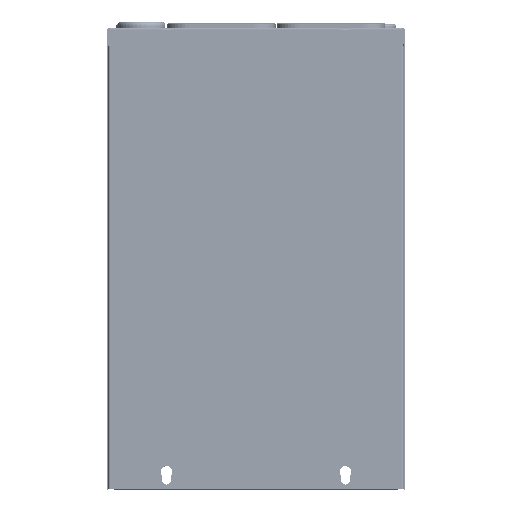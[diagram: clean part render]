
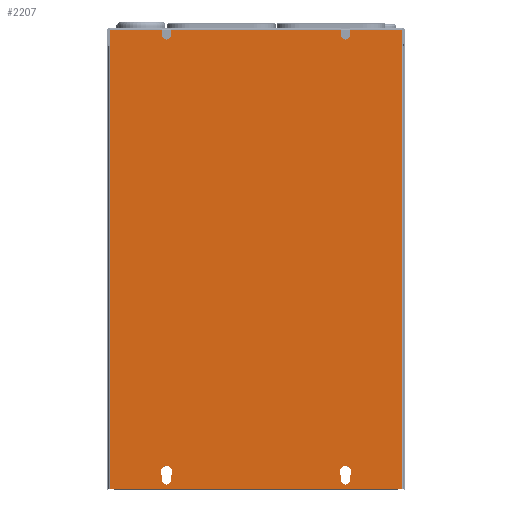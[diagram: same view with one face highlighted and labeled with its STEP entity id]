
A CAD part, front view. The second image highlights one B-rep face of the part: STEP entity #2207.
In plain terms, the highlighted planar face has unit normal (0, -1, 0).
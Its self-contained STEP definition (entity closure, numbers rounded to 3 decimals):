
#197=DIRECTION('',(1.,0.,0.));
#198=VECTOR('',#197,238.2);
#199=CARTESIAN_POINT('',(-119.1,-1.2,-192.3));
#200=LINE('',#199,#198);
#211=CARTESIAN_POINT('',(-75.,-1.2,187.5));
#212=DIRECTION('',(0.,-1.,0.));
#213=DIRECTION('',(-1.,0.,0.));
#214=AXIS2_PLACEMENT_3D('',#211,#212,#213);
#219=DIRECTION('',(0.,0.,1.));
#220=VECTOR('',#219,4.8);
#221=CARTESIAN_POINT('',(-71.5,-1.2,187.5));
#222=LINE('',#221,#220);
#226=CARTESIAN_POINT('',(75.,-1.2,187.5));
#227=DIRECTION('',(0.,-1.,0.));
#228=DIRECTION('',(-1.,0.,0.));
#229=AXIS2_PLACEMENT_3D('',#226,#227,#228);
#234=DIRECTION('',(0.,0.,1.));
#235=VECTOR('',#234,4.8);
#236=CARTESIAN_POINT('',(78.5,-1.2,187.5));
#237=LINE('',#236,#235);
#241=DIRECTION('',(-1.,0.,0.));
#242=VECTOR('',#241,0.5);
#243=CARTESIAN_POINT('',(122.6,-1.2,178.5));
#244=LINE('',#243,#242);
#248=DIRECTION('',(-1.,0.,0.));
#249=VECTOR('',#248,3.);
#250=CARTESIAN_POINT('',(122.1,-1.2,-192.3));
#251=LINE('',#250,#249);
#255=DIRECTION('',(-1.,0.,0.));
#256=VECTOR('',#255,3.);
#257=CARTESIAN_POINT('',(-119.1,-1.2,-192.3));
#258=LINE('',#257,#256);
#262=DIRECTION('',(0.,0.,-1.));
#263=VECTOR('',#262,3.429);
#264=CARTESIAN_POINT('',(71.5,-1.2,-182.071));
#265=LINE('',#264,#263);
#269=CARTESIAN_POINT('',(75.,-1.2,-185.5));
#270=DIRECTION('',(0.,-1.,0.));
#271=DIRECTION('',(-1.,0.,0.));
#272=AXIS2_PLACEMENT_3D('',#269,#270,#271);
#277=DIRECTION('',(0.,0.,1.));
#278=VECTOR('',#277,3.429);
#279=CARTESIAN_POINT('',(78.5,-1.2,-185.5));
#280=LINE('',#279,#278);
#284=CARTESIAN_POINT('',(75.,-1.2,-178.5));
#285=DIRECTION('',(0.,-1.,0.));
#286=DIRECTION('',(0.7,0.,-0.714));
#287=AXIS2_PLACEMENT_3D('',#284,#285,#286);
#292=CARTESIAN_POINT('',(75.,-1.2,-178.5));
#293=DIRECTION('',(0.,-1.,0.));
#294=DIRECTION('',(1.,0.,0.));
#295=AXIS2_PLACEMENT_3D('',#292,#293,#294);
#300=CARTESIAN_POINT('',(75.,-1.2,-178.5));
#301=DIRECTION('',(0.,-1.,0.));
#302=DIRECTION('',(-1.,0.,0.));
#303=AXIS2_PLACEMENT_3D('',#300,#301,#302);
#308=CARTESIAN_POINT('',(-75.,-1.2,-185.5));
#309=DIRECTION('',(0.,-1.,0.));
#310=DIRECTION('',(-1.,0.,0.));
#311=AXIS2_PLACEMENT_3D('',#308,#309,#310);
#316=DIRECTION('',(0.,0.,1.));
#317=VECTOR('',#316,3.429);
#318=CARTESIAN_POINT('',(-71.5,-1.2,-185.5));
#319=LINE('',#318,#317);
#323=CARTESIAN_POINT('',(-75.,-1.2,-178.5));
#324=DIRECTION('',(0.,-1.,0.));
#325=DIRECTION('',(0.7,0.,-0.714));
#326=AXIS2_PLACEMENT_3D('',#323,#324,#325);
#331=CARTESIAN_POINT('',(-75.,-1.2,-178.5));
#332=DIRECTION('',(0.,-1.,0.));
#333=DIRECTION('',(1.,0.,0.));
#334=AXIS2_PLACEMENT_3D('',#331,#332,#333);
#339=CARTESIAN_POINT('',(-75.,-1.2,-178.5));
#340=DIRECTION('',(0.,-1.,0.));
#341=DIRECTION('',(-1.,0.,0.));
#342=AXIS2_PLACEMENT_3D('',#339,#340,#341);
#347=DIRECTION('',(0.,0.,-1.));
#348=VECTOR('',#347,3.429);
#349=CARTESIAN_POINT('',(-78.5,-1.2,-182.071));
#350=LINE('',#349,#348);
#368=DIRECTION('',(0.,0.,1.));
#369=VECTOR('',#368,4.8);
#370=CARTESIAN_POINT('',(-78.5,-1.2,187.5));
#371=LINE('',#370,#369);
#391=DIRECTION('',(-1.,0.,0.));
#392=VECTOR('',#391,44.1);
#393=CARTESIAN_POINT('',(-78.5,-1.2,192.3));
#394=LINE('',#393,#392);
#456=DIRECTION('',(0.,0.,-1.));
#457=VECTOR('',#456,13.8);
#458=CARTESIAN_POINT('',(-122.6,-1.2,192.3));
#459=LINE('',#458,#457);
#477=DIRECTION('',(1.,0.,0.));
#478=VECTOR('',#477,0.5);
#479=CARTESIAN_POINT('',(-122.6,-1.2,178.5));
#480=LINE('',#479,#478);
#507=DIRECTION('',(0.,0.,-1.));
#508=VECTOR('',#507,370.8);
#509=CARTESIAN_POINT('',(-122.1,-1.2,178.5));
#510=LINE('',#509,#508);
#939=DIRECTION('',(0.,0.,1.));
#940=VECTOR('',#939,13.8);
#941=CARTESIAN_POINT('',(122.6,-1.2,178.5));
#942=LINE('',#941,#940);
#983=DIRECTION('',(0.,0.,1.));
#984=VECTOR('',#983,370.8);
#985=CARTESIAN_POINT('',(122.1,-1.2,-192.3));
#986=LINE('',#985,#984);
#1461=DIRECTION('',(-1.,0.,0.));
#1462=VECTOR('',#1461,44.1);
#1463=CARTESIAN_POINT('',(122.6,-1.2,192.3));
#1464=LINE('',#1463,#1462);
#1505=DIRECTION('',(0.,0.,1.));
#1506=VECTOR('',#1505,4.8);
#1507=CARTESIAN_POINT('',(71.5,-1.2,187.5));
#1508=LINE('',#1507,#1506);
#1535=DIRECTION('',(-1.,0.,0.));
#1536=VECTOR('',#1535,143.);
#1537=CARTESIAN_POINT('',(71.5,-1.2,192.3));
#1538=LINE('',#1537,#1536);
#1697=CARTESIAN_POINT('',(-122.1,-1.2,-192.3));
#1698=VERTEX_POINT('',#1697);
#1699=CARTESIAN_POINT('',(-119.1,-1.2,-192.3));
#1700=VERTEX_POINT('',#1699);
#1759=CARTESIAN_POINT('',(119.1,-1.2,-192.3));
#1760=VERTEX_POINT('',#1759);
#1763=CARTESIAN_POINT('',(-78.5,-1.2,187.5));
#1764=CARTESIAN_POINT('',(-71.5,-1.2,187.5));
#1765=VERTEX_POINT('',#1763);
#1766=VERTEX_POINT('',#1764);
#1767=CARTESIAN_POINT('',(-71.5,-1.2,192.3));
#1768=VERTEX_POINT('',#1767);
#1769=CARTESIAN_POINT('',(71.5,-1.2,192.3));
#1770=VERTEX_POINT('',#1769);
#1771=CARTESIAN_POINT('',(71.5,-1.2,187.5));
#1772=VERTEX_POINT('',#1771);
#1773=CARTESIAN_POINT('',(78.5,-1.2,187.5));
#1774=VERTEX_POINT('',#1773);
#1775=CARTESIAN_POINT('',(78.5,-1.2,192.3));
#1776=VERTEX_POINT('',#1775);
#1777=CARTESIAN_POINT('',(122.6,-1.2,192.3));
#1778=VERTEX_POINT('',#1777);
#1779=CARTESIAN_POINT('',(122.6,-1.2,178.5));
#1780=VERTEX_POINT('',#1779);
#1781=CARTESIAN_POINT('',(122.1,-1.2,178.5));
#1782=VERTEX_POINT('',#1781);
#1783=CARTESIAN_POINT('',(122.1,-1.2,-192.3));
#1784=VERTEX_POINT('',#1783);
#1785=CARTESIAN_POINT('',(-122.1,-1.2,178.5));
#1786=VERTEX_POINT('',#1785);
#1787=CARTESIAN_POINT('',(-122.6,-1.2,178.5));
#1788=VERTEX_POINT('',#1787);
#1789=CARTESIAN_POINT('',(-122.6,-1.2,192.3));
#1790=VERTEX_POINT('',#1789);
#1791=CARTESIAN_POINT('',(-78.5,-1.2,192.3));
#1792=VERTEX_POINT('',#1791);
#1793=CARTESIAN_POINT('',(71.5,-1.2,-182.071));
#1794=CARTESIAN_POINT('',(71.5,-1.2,-185.5));
#1795=VERTEX_POINT('',#1793);
#1796=VERTEX_POINT('',#1794);
#1797=CARTESIAN_POINT('',(78.5,-1.2,-185.5));
#1798=VERTEX_POINT('',#1797);
#1799=CARTESIAN_POINT('',(78.5,-1.2,-182.071));
#1800=VERTEX_POINT('',#1799);
#1801=CARTESIAN_POINT('',(70.,-1.2,-178.5));
#1802=VERTEX_POINT('',#1801);
#1803=CARTESIAN_POINT('',(80.,-1.2,-178.5));
#1804=VERTEX_POINT('',#1803);
#1805=CARTESIAN_POINT('',(-78.5,-1.2,-185.5));
#1806=CARTESIAN_POINT('',(-71.5,-1.2,-185.5));
#1807=VERTEX_POINT('',#1805);
#1808=VERTEX_POINT('',#1806);
#1809=CARTESIAN_POINT('',(-71.5,-1.2,-182.071));
#1810=VERTEX_POINT('',#1809);
#1811=CARTESIAN_POINT('',(-80.,-1.2,-178.5));
#1812=CARTESIAN_POINT('',(-78.5,-1.2,-182.071));
#1813=VERTEX_POINT('',#1811);
#1814=VERTEX_POINT('',#1812);
#1815=CARTESIAN_POINT('',(-70.,-1.2,-178.5));
#1816=VERTEX_POINT('',#1815);
#2138=CARTESIAN_POINT('',(0.,-1.2,0.));
#2139=DIRECTION('',(0.,1.,0.));
#2140=DIRECTION('',(1.,0.,0.));
#2141=AXIS2_PLACEMENT_3D('',#2138,#2139,#2140);
#2142=PLANE('',#2141);
#2144=ORIENTED_EDGE('',*,*,#2143,.T.);
#2146=ORIENTED_EDGE('',*,*,#2145,.T.);
#2148=ORIENTED_EDGE('',*,*,#2147,.F.);
#2150=ORIENTED_EDGE('',*,*,#2149,.F.);
#2152=ORIENTED_EDGE('',*,*,#2151,.T.);
#2154=ORIENTED_EDGE('',*,*,#2153,.T.);
#2156=ORIENTED_EDGE('',*,*,#2155,.F.);
#2158=ORIENTED_EDGE('',*,*,#2157,.F.);
#2160=ORIENTED_EDGE('',*,*,#2159,.T.);
#2162=ORIENTED_EDGE('',*,*,#2161,.F.);
#2164=ORIENTED_EDGE('',*,*,#2163,.T.);
#2165=ORIENTED_EDGE('',*,*,#2128,.F.);
#2166=ORIENTED_EDGE('',*,*,#1994,.T.);
#2168=ORIENTED_EDGE('',*,*,#2167,.F.);
#2170=ORIENTED_EDGE('',*,*,#2169,.F.);
#2172=ORIENTED_EDGE('',*,*,#2171,.F.);
#2174=ORIENTED_EDGE('',*,*,#2173,.F.);
#2176=ORIENTED_EDGE('',*,*,#2175,.F.);
#2177=EDGE_LOOP('',(#2144,#2146,#2148,#2150,#2152,#2154,#2156,#2158,#2160,#2162,
#2164,#2165,#2166,#2168,#2170,#2172,#2174,#2176));
#2178=FACE_OUTER_BOUND('',#2177,.F.);
#2180=ORIENTED_EDGE('',*,*,#2179,.T.);
#2182=ORIENTED_EDGE('',*,*,#2181,.T.);
#2184=ORIENTED_EDGE('',*,*,#2183,.T.);
#2186=ORIENTED_EDGE('',*,*,#2185,.T.);
#2188=ORIENTED_EDGE('',*,*,#2187,.T.);
#2190=ORIENTED_EDGE('',*,*,#2189,.T.);
#2191=EDGE_LOOP('',(#2180,#2182,#2184,#2186,#2188,#2190));
#2192=FACE_BOUND('',#2191,.F.);
#2194=ORIENTED_EDGE('',*,*,#2193,.T.);
#2196=ORIENTED_EDGE('',*,*,#2195,.T.);
#2198=ORIENTED_EDGE('',*,*,#2197,.T.);
#2200=ORIENTED_EDGE('',*,*,#2199,.T.);
#2202=ORIENTED_EDGE('',*,*,#2201,.T.);
#2204=ORIENTED_EDGE('',*,*,#2203,.T.);
#2205=EDGE_LOOP('',(#2194,#2196,#2198,#2200,#2202,#2204));
#2206=FACE_BOUND('',#2205,.F.);
#215=CIRCLE('',#214,3.5);
#230=CIRCLE('',#229,3.5);
#273=CIRCLE('',#272,3.5);
#288=CIRCLE('',#287,5.);
#296=CIRCLE('',#295,5.);
#304=CIRCLE('',#303,5.);
#312=CIRCLE('',#311,3.5);
#327=CIRCLE('',#326,5.);
#335=CIRCLE('',#334,5.);
#343=CIRCLE('',#342,5.);
#1994=EDGE_CURVE('',#1700,#1698,#258,.T.);
#2128=EDGE_CURVE('',#1700,#1760,#200,.T.);
#2143=EDGE_CURVE('',#1765,#1766,#215,.T.);
#2145=EDGE_CURVE('',#1766,#1768,#222,.T.);
#2147=EDGE_CURVE('',#1770,#1768,#1538,.T.);
#2149=EDGE_CURVE('',#1772,#1770,#1508,.T.);
#2151=EDGE_CURVE('',#1772,#1774,#230,.T.);
#2153=EDGE_CURVE('',#1774,#1776,#237,.T.);
#2155=EDGE_CURVE('',#1778,#1776,#1464,.T.);
#2157=EDGE_CURVE('',#1780,#1778,#942,.T.);
#2159=EDGE_CURVE('',#1780,#1782,#244,.T.);
#2161=EDGE_CURVE('',#1784,#1782,#986,.T.);
#2163=EDGE_CURVE('',#1784,#1760,#251,.T.);
#2167=EDGE_CURVE('',#1786,#1698,#510,.T.);
#2169=EDGE_CURVE('',#1788,#1786,#480,.T.);
#2171=EDGE_CURVE('',#1790,#1788,#459,.T.);
#2173=EDGE_CURVE('',#1792,#1790,#394,.T.);
#2175=EDGE_CURVE('',#1765,#1792,#371,.T.);
#2179=EDGE_CURVE('',#1795,#1796,#265,.T.);
#2181=EDGE_CURVE('',#1796,#1798,#273,.T.);
#2183=EDGE_CURVE('',#1798,#1800,#280,.T.);
#2185=EDGE_CURVE('',#1800,#1804,#288,.T.);
#2187=EDGE_CURVE('',#1804,#1802,#296,.T.);
#2189=EDGE_CURVE('',#1802,#1795,#304,.T.);
#2193=EDGE_CURVE('',#1807,#1808,#312,.T.);
#2195=EDGE_CURVE('',#1808,#1810,#319,.T.);
#2197=EDGE_CURVE('',#1810,#1816,#327,.T.);
#2199=EDGE_CURVE('',#1816,#1813,#335,.T.);
#2201=EDGE_CURVE('',#1813,#1814,#343,.T.);
#2203=EDGE_CURVE('',#1814,#1807,#350,.T.);
#2207=ADVANCED_FACE('',(#2178,#2192,#2206),#2142,.F.);
